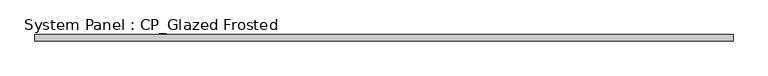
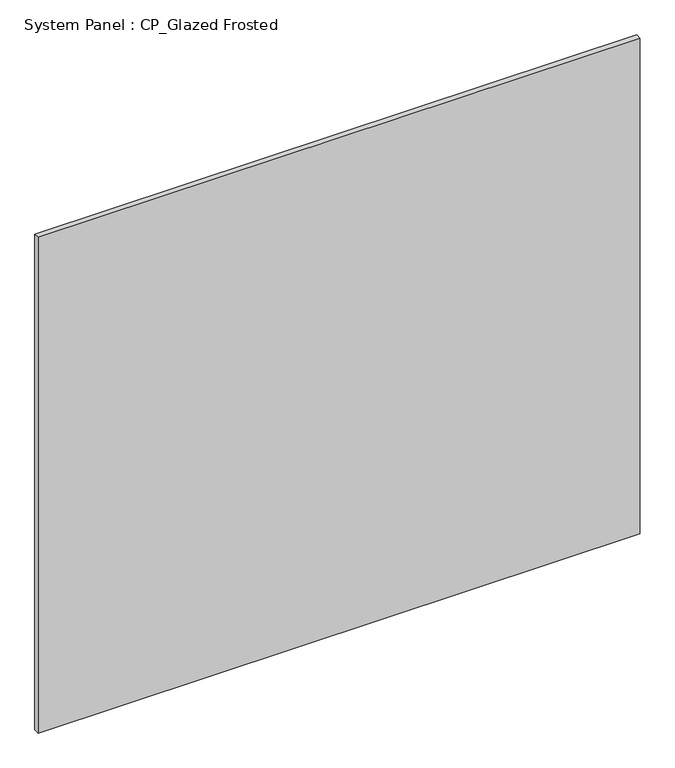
"""IFC4 building model written with IfcOpenShell, lengths in millimetres: plate geometry, System Panel : CP_Glazed Frosted."""

from ifc_helpers import new_model, si_unit, origin, origin_with_axes, place, context, project, spatial, polyline, outline, extrude, source, transform, mapped, element, save


def system_panel_cp_glazed_frosted_90b056d2(model_context):
    return source(origin(), model_context, "Body", "SweptSolid", [
        extrude(outline(polyline([(1401.248997, 19.05), (-1401.248997, 19.05), (-1401.248997, 44.45), (1401.248997, 44.45), (1401.248997, 19.05)])), origin_with_axes(), (0.0, 0.0, 1.0), 2438.4),
    ])


if __name__ == "__main__":
    model = new_model("IFC4")
    model_context = context("Model", 3, world=origin())
    ifc_project = project(units=[si_unit("LENGTHUNIT", "METRE", prefix="MILLI")], contexts=[model_context])
    site = spatial("IfcSite", under=ifc_project)
    building = spatial("IfcBuilding", under=site)
    placement = place(None, origin())
    system_panel_cp_glazed_frosted_shape = system_panel_cp_glazed_frosted_90b056d2(model_context)
    element("IfcPlate", 1, ObjectType="System Panel : CP_Glazed Frosted", at=placement, inside=building, context=model_context, shape_type="MappedRepresentation", body=[
        mapped(system_panel_cp_glazed_frosted_shape, transform((0.0, 0.0, 0.0), x_axis=(1.0, 0.0, 0.0), y_axis=(0.0, 1.0, 0.0), z_axis=(0.0, 0.0, 1.0))),
    ])
    save(model, "model.ifc")
